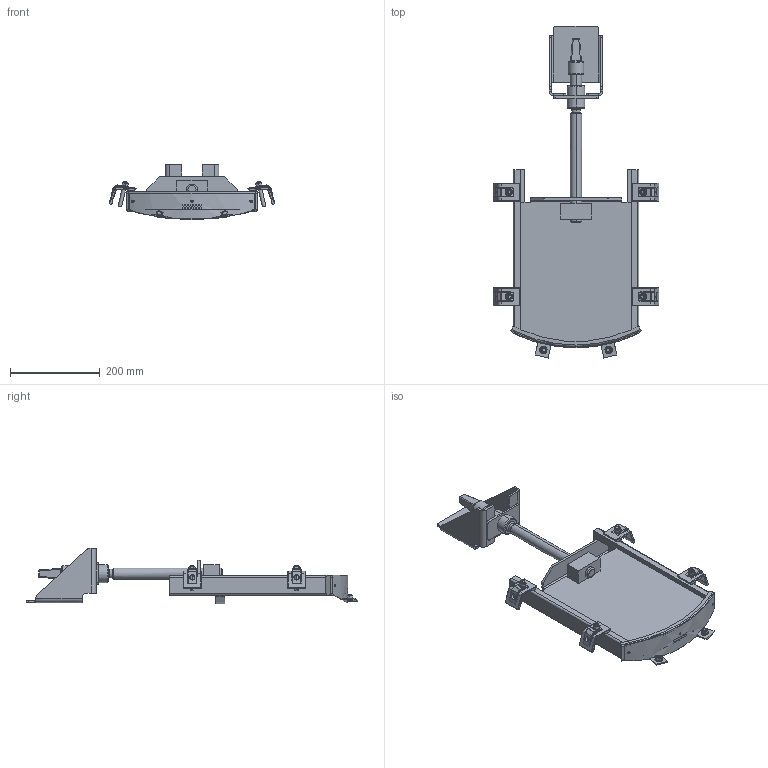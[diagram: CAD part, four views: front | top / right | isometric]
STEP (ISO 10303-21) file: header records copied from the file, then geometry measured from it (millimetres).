
FILE_DESCRIPTION (( 'STEP AP214' ), '1' );
FILE_NAME ('LW 200 Schacht1000 geschr..STEP', '2022-05-19T10:08:41', ( '' ), ( '' ), 'SwSTEP 2.0', 'SolidWorks 2021', '' );
FILE_SCHEMA (( 'AUTOMOTIVE_DESIGN' ));
Length unit declared in the file: millimetre
Products named in the file (1): LW 200 Schacht1000 geschr.
Bounding box: 369.38 x 739.7 x 123.57 mm (x, y, z)
Volume: 1926400.4 mm3; surface area: 544555.4 mm2
Topology: 1 solids, 5 shells, 1051 faces, 2570 edges, 1512 vertices
Faces by surface type: cylinder 335, plane 289, bspline 221, cone 90, sphere 60, torus 56
Entity records: 53293 total; most frequent: CARTESIAN_POINT 19199, ORIENTED_EDGE 5020, DIRECTION 4179, EDGE_CURVE 2510, AXIS2_PLACEMENT_3D 1631, VERTEX_POINT 1504, EDGE_LOOP 1120, UNCERTAINTY_MEASURE_WITH_UNIT 1054
